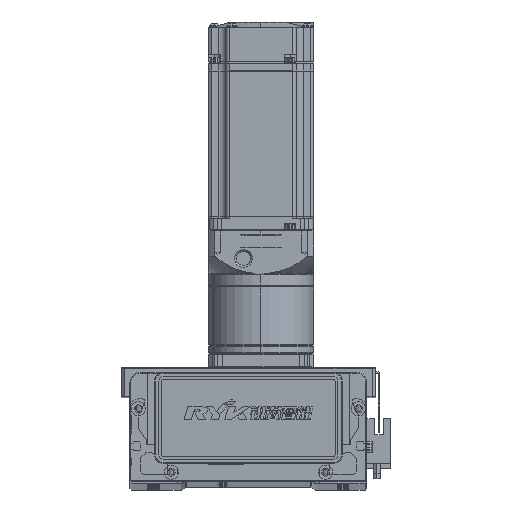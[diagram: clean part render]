
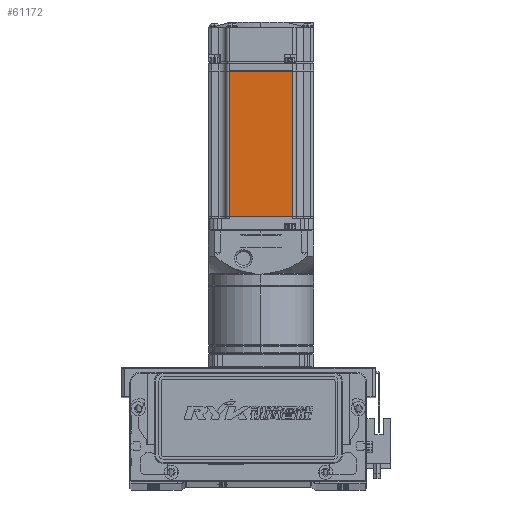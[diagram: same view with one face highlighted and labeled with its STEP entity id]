
A CAD part, top view. The second image highlights one B-rep face of the part: STEP entity #61172.
In plain terms, the highlighted planar face has unit normal (0, 0, 1).
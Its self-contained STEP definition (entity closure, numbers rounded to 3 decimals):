
#121 = LINE ( 'NONE', #60472, #61404 ) ;
#3460 = CARTESIAN_POINT ( 'NONE',  ( -90.45, 0., 30. ) ) ;
#4904 = VERTEX_POINT ( 'NONE', #20316 ) ;
#5158 = FACE_OUTER_BOUND ( 'NONE', #52923, .T. ) ;
#6702 = DIRECTION ( 'NONE',  ( -1., 0., 0. ) ) ;
#10260 = DIRECTION ( 'NONE',  ( 0., -1., 0. ) ) ;
#11543 = EDGE_CURVE ( 'NONE', #85722, #55525, #45234, .T. ) ;
#13934 = DIRECTION ( 'NONE',  ( 1., 0., 0. ) ) ;
#20316 = CARTESIAN_POINT ( 'NONE',  ( -90.45, 18., 30. ) ) ;
#22962 = VECTOR ( 'NONE', #34243, 1000. ) ;
#23651 = ORIENTED_EDGE ( 'NONE', *, *, #53548, .T. ) ;
#23800 = LINE ( 'NONE', #3460, #33314 ) ;
#24834 = CARTESIAN_POINT ( 'NONE',  ( -90.45, -18., 30. ) ) ;
#26305 = CARTESIAN_POINT ( 'NONE',  ( -7.75, 18., 30. ) ) ;
#31250 = DIRECTION ( 'NONE',  ( -1., 0., 0. ) ) ;
#33314 = VECTOR ( 'NONE', #10260, 1000. ) ;
#34243 = DIRECTION ( 'NONE',  ( 0., -1., 0. ) ) ;
#38697 = VERTEX_POINT ( 'NONE', #24834 ) ;
#43367 = EDGE_CURVE ( 'NONE', #85722, #4904, #121, .T. ) ;
#45234 = LINE ( 'NONE', #48167, #22962 ) ;
#46490 = DIRECTION ( 'NONE',  ( 0., 0., 1. ) ) ;
#47077 = CARTESIAN_POINT ( 'NONE',  ( -6.5, -25., 30. ) ) ;
#48167 = CARTESIAN_POINT ( 'NONE',  ( -7.75, 0., 30. ) ) ;
#52830 = ORIENTED_EDGE ( 'NONE', *, *, #73200, .F. ) ;
#52923 = EDGE_LOOP ( 'NONE', ( #69978, #73205, #23651, #52830 ) ) ;
#53548 = EDGE_CURVE ( 'NONE', #4904, #38697, #23800, .T. ) ;
#55525 = VERTEX_POINT ( 'NONE', #75270 ) ;
#60472 = CARTESIAN_POINT ( 'NONE',  ( -6.5, 18., 30. ) ) ;
#61172 = ADVANCED_FACE ( 'NONE', ( #5158 ), #87478, .T. ) ;
#61404 = VECTOR ( 'NONE', #6702, 1000. ) ;
#64388 = CARTESIAN_POINT ( 'NONE',  ( -6.5, -18., 30. ) ) ;
#69155 = LINE ( 'NONE', #64388, #72384 ) ;
#69978 = ORIENTED_EDGE ( 'NONE', *, *, #11543, .F. ) ;
#71659 = AXIS2_PLACEMENT_3D ( 'NONE', #47077, #46490, #13934 ) ;
#72384 = VECTOR ( 'NONE', #31250, 1000. ) ;
#73200 = EDGE_CURVE ( 'NONE', #55525, #38697, #69155, .T. ) ;
#73205 = ORIENTED_EDGE ( 'NONE', *, *, #43367, .T. ) ;
#75270 = CARTESIAN_POINT ( 'NONE',  ( -7.75, -18., 30. ) ) ;
#85722 = VERTEX_POINT ( 'NONE', #26305 ) ;
#87478 = PLANE ( 'NONE',  #71659 ) ;
